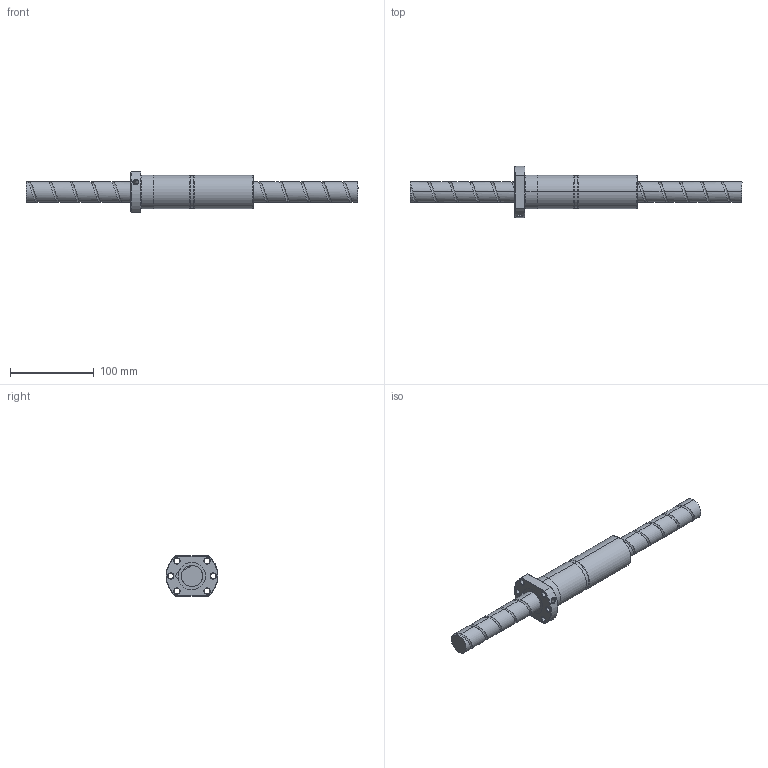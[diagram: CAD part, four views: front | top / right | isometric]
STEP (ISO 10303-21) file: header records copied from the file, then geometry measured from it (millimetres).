
FILE_DESCRIPTION (( 'STEP AP214' ), '1' );
FILE_NAME ('FDDC02525T2-B-C.STEP', '2010-07-06T03:21:32', ( 'XPAUTO' ), ( 'XPAUTO' ), 'SwSTEP 2.0', 'SolidWorks 2007', '' );
FILE_SCHEMA (( 'AUTOMOTIVE_DESIGN' ));
Length unit declared in the file: millimetre
Products named in the file (3): FDDC02525T2-B-C.sldasm-Part-1_預設; FDDC02525T2-B-C; FDDC02525T2-B-C.sldasm-Part-2_預設
Assembly tree (2 placements, depth 2):
  FDDC02525T2-B-C
    FDDC02525T2-B-C.sldasm-Part-2_預設
    FDDC02525T2-B-C.sldasm-Part-1_預設
Bounding box: 396 x 61.8 x 48 mm (x, y, z)
Volume: 313008.3 mm3; surface area: 69796.9 mm2
Topology: 2 solids, 2 shells, 137 faces, 337 edges, 209 vertices
Faces by surface type: cylinder 76, cone 24, plane 22, torus 10, bspline 5
Entity records: 25530 total; most frequent: CARTESIAN_POINT 22286, ORIENTED_EDGE 674, DIRECTION 641, EDGE_CURVE 337, AXIS2_PLACEMENT_3D 262, VERTEX_POINT 209, EDGE_LOOP 158, FACE_OUTER_BOUND 137
